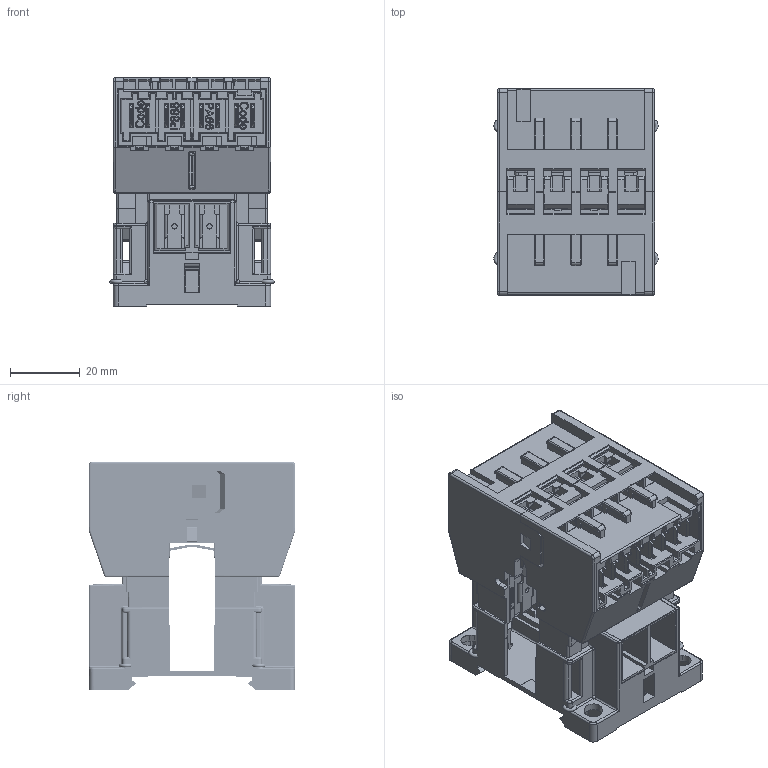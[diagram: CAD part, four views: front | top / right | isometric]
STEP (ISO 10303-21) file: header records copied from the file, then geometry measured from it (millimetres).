
FILE_DESCRIPTION (( 'STEP AP203' ), '1' );
FILE_NAME ('K3-10R.STEP', '2008-12-03T06:02:37', ( 'Gutermuth' ), ( 'Benedict GmbH' ), 'SwSTEP 2.0', 'SolidWorks 2009', '' );
FILE_SCHEMA (( 'CONFIG_CONTROL_DESIGN' ));
Products named in the file (14): K3-10R; 49235; Wanne oben komplett; 49236; Wanne unten komplett; 49239; 49237; Joch komplett; 49755; 28439; 49238; 49244 links; 49244 rechts; 49238leer
Assembly tree (21 placements, depth 3):
  K3-10R
    Wanne unten komplett
      49239  x4
      49237
    49236
    Wanne oben komplett
      49237
      49239  x4
    Joch komplett
      28439
      49755
    49238
    49244 rechts
    49244 links
    49235
    49238leer
Bounding box: 46.99 x 59 x 65.3 mm (x, y, z)
Volume: 50750.5 mm3; surface area: 76598.8 mm2
Topology: 18 solids, 18 shells, 6880 faces, 19370 edges, 12561 vertices
Faces by surface type: plane 4129, bspline 1485, cylinder 1040, torus 108, cone 65, sphere 53
Entity records: 173191 total; most frequent: CARTESIAN_POINT 49641, ORIENTED_EDGE 28146, DIRECTION 20570, EDGE_CURVE 14073, VECTOR 10372, LINE 10372, VERTEX_POINT 9095, EDGE_LOOP 5260
